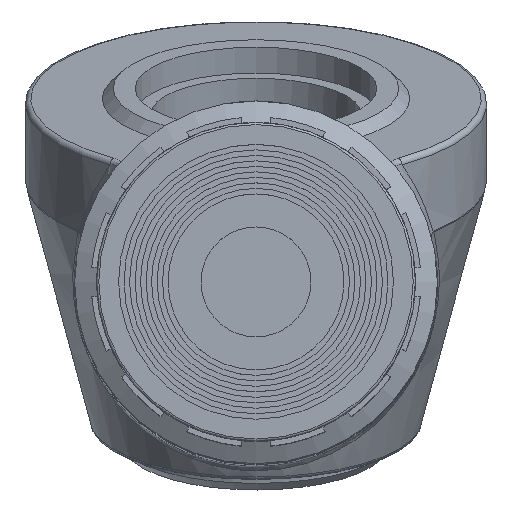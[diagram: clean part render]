
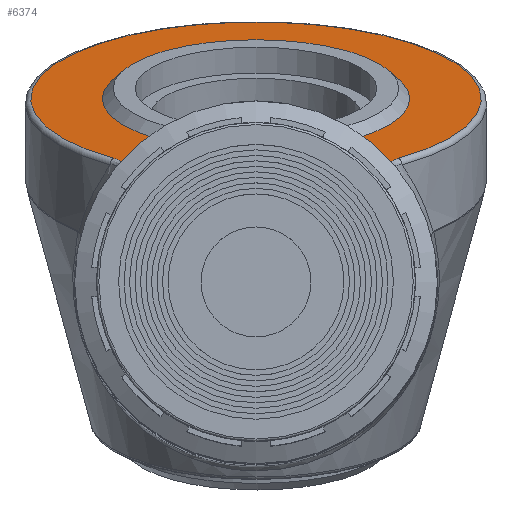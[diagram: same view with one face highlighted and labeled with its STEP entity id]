
A CAD part, top view. The second image highlights one B-rep face of the part: STEP entity #6374.
In plain terms, the highlighted planar face has unit normal (0, 0.94, 0.342).
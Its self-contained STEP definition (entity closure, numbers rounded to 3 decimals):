
#19=ELLIPSE('',#7031,46.781,16.);
#20=ELLIPSE('',#7033,46.781,16.);
#126=B_SPLINE_CURVE_WITH_KNOTS('',3,(#12076,#12077,#12078,#12079,#12080),
 .UNSPECIFIED.,.F.,.F.,(4,1,4),(0.,0.094,0.219),
 .UNSPECIFIED.);
#127=B_SPLINE_CURVE_WITH_KNOTS('',3,(#12084,#12085,#12086,#12087,#12088),
 .UNSPECIFIED.,.F.,.F.,(4,1,4),(0.,0.094,0.219),
 .UNSPECIFIED.);
#198=FACE_BOUND('',#1250,.T.);
#537=PLANE('',#7030);
#845=FACE_OUTER_BOUND('',#1249,.T.);
#1249=EDGE_LOOP('',(#5325,#5326,#5327,#5328,#5329,#5330));
#1250=EDGE_LOOP('',(#5331));
#1624=LINE('',#11347,#1983);
#1983=VECTOR('',#8491,10.);
#2315=CIRCLE('',#6983,14.);
#2344=CIRCLE('',#7032,20.5);
#2888=VERTEX_POINT('',#11328);
#2891=VERTEX_POINT('',#11335);
#2892=VERTEX_POINT('',#11346);
#2929=VERTEX_POINT('',#12073);
#2930=VERTEX_POINT('',#12075);
#2931=VERTEX_POINT('',#12081);
#2932=VERTEX_POINT('',#12083);
#3700=EDGE_CURVE('',#2888,#2888,#2315,.T.);
#3703=EDGE_CURVE('',#2891,#2892,#1624,.T.);
#3761=EDGE_CURVE('',#2929,#2891,#19,.T.);
#3762=EDGE_CURVE('',#2930,#2929,#126,.T.);
#3763=EDGE_CURVE('',#2931,#2930,#2344,.T.);
#3764=EDGE_CURVE('',#2932,#2931,#127,.T.);
#3765=EDGE_CURVE('',#2892,#2932,#20,.T.);
#5325=ORIENTED_EDGE('',*,*,#3761,.F.);
#5326=ORIENTED_EDGE('',*,*,#3762,.F.);
#5327=ORIENTED_EDGE('',*,*,#3763,.F.);
#5328=ORIENTED_EDGE('',*,*,#3764,.F.);
#5329=ORIENTED_EDGE('',*,*,#3765,.F.);
#5330=ORIENTED_EDGE('',*,*,#3703,.F.);
#5331=ORIENTED_EDGE('',*,*,#3700,.F.);
#6374=ADVANCED_FACE('',(#845,#198),#537,.T.);
#6983=AXIS2_PLACEMENT_3D('',#11330,#8485,#8486);
#7030=AXIS2_PLACEMENT_3D('',#12072,#8589,#8590);
#7031=AXIS2_PLACEMENT_3D('',#12074,#8591,#8592);
#7032=AXIS2_PLACEMENT_3D('',#12082,#8593,#8594);
#7033=AXIS2_PLACEMENT_3D('',#12089,#8595,#8596);
#8485=DIRECTION('center_axis',(0.,0.94,0.342));
#8486=DIRECTION('ref_axis',(-1.,0.,0.));
#8491=DIRECTION('',(-1.,0.,0.));
#8589=DIRECTION('center_axis',(0.,0.94,0.342));
#8590=DIRECTION('ref_axis',(0.,-0.342,0.94));
#8591=DIRECTION('center_axis',(0.,-0.94,
-0.342));
#8592=DIRECTION('ref_axis',(0.,0.342,-0.94));
#8593=DIRECTION('center_axis',(0.,-0.94,
-0.342));
#8594=DIRECTION('ref_axis',(0.,0.342,-0.94));
#8595=DIRECTION('center_axis',(0.,-0.94,
-0.342));
#8596=DIRECTION('ref_axis',(0.,0.342,-0.94));
#11328=CARTESIAN_POINT('',(3.173,27.524,6.156));
#11330=CARTESIAN_POINT('Origin',(-10.827,27.524,6.156));
#11335=CARTESIAN_POINT('',(2.312,20.21,26.251));
#11346=CARTESIAN_POINT('',(-23.966,20.21,26.251));
#11347=CARTESIAN_POINT('',(-10.827,20.21,26.251));
#12072=CARTESIAN_POINT('Origin',(-10.827,26.954,7.723));
#12073=CARTESIAN_POINT('',(1.375,21.429,22.903));
#12074=CARTESIAN_POINT('Origin',(-10.827,11.079,51.338));
#12075=CARTESIAN_POINT('',(2.137,22.092,21.079));
#12076=CARTESIAN_POINT('Ctrl Pts',(2.137,22.092,21.079));
#12077=CARTESIAN_POINT('Ctrl Pts',(1.894,22.025,21.265));
#12078=CARTESIAN_POINT('Ctrl Pts',(1.412,21.829,21.804));
#12079=CARTESIAN_POINT('Ctrl Pts',(1.259,21.566,22.526));
#12080=CARTESIAN_POINT('Ctrl Pts',(1.375,21.429,22.903));
#12081=CARTESIAN_POINT('',(-23.791,22.092,21.079));
#12082=CARTESIAN_POINT('Origin',(-10.827,27.524,6.156));
#12083=CARTESIAN_POINT('',(-23.029,21.429,22.903));
#12084=CARTESIAN_POINT('Ctrl Pts',(-23.029,21.429,22.903));
#12085=CARTESIAN_POINT('Ctrl Pts',(-22.942,21.531,22.62));
#12086=CARTESIAN_POINT('Ctrl Pts',(-23.011,21.793,21.9));
#12087=CARTESIAN_POINT('Ctrl Pts',(-23.467,22.002,21.327));
#12088=CARTESIAN_POINT('Ctrl Pts',(-23.791,22.092,21.079));
#12089=CARTESIAN_POINT('Origin',(-10.827,11.079,51.338));
